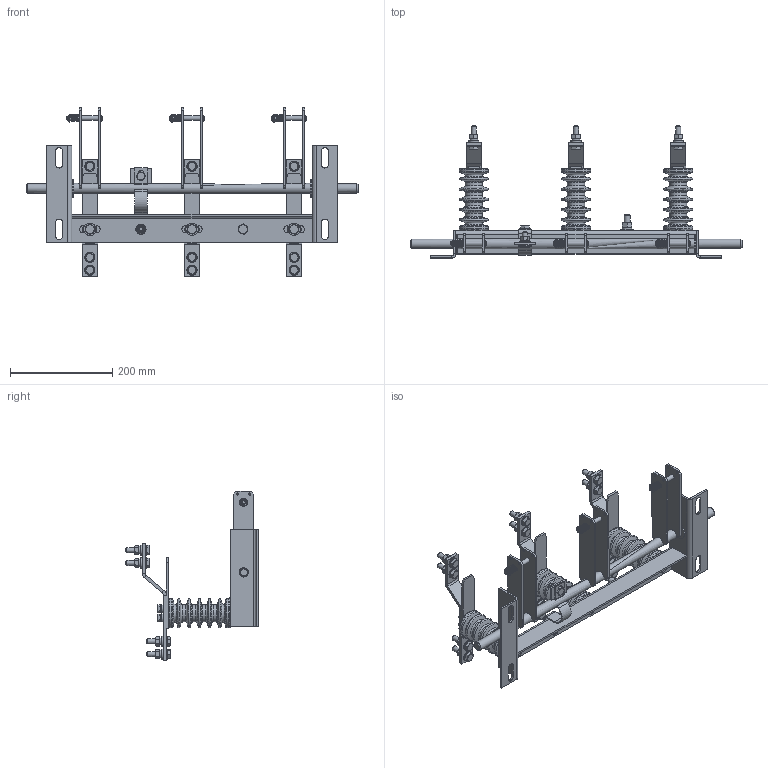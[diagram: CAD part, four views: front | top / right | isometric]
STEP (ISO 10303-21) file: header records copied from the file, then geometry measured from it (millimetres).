
FILE_DESCRIPTION (( 'STEP AP214' ), '1' );
FILE_NAME ('Çàçåìëèòåëü ÇÐ-10400-Ó3-ÊÝÀÇ.STEP', '2023-02-01T11:03:42', ( '' ), ( '' ), 'SwSTEP 2.0', 'SolidWorks 2018', '' );
FILE_SCHEMA (( 'AUTOMOTIVE_DESIGN' ));
Length unit declared in the file: millimetre
Products named in the file (1): Çàçåìëèòåëü ÇÐ-10400-Ó3-ÊÝÀÇ
Bounding box: 650 x 258.68 x 331.04 mm (x, y, z)
Volume: 1552030.4 mm3; surface area: 502994.4 mm2
Topology: 1 solids, 8 shells, 1190 faces, 2959 edges, 1911 vertices
Faces by surface type: plane 714, cylinder 283, cone 130, torus 57, bspline 6
Full cylindrical faces by diameter (mm): 4.2 x12, 8 x6, 8.799 x2, 8.852 x2, 8.964 x2, 10 x14, 10.8 x1, 11 x1, 12 x1, 12.35 x6, 13 x1, 16 x9, 17.1 x1, 18 x2, 19.639 x3, 20 x27, 24 x4, 34 x14, 54 x6, 57 x6
Entity records: 56062 total; most frequent: CARTESIAN_POINT 30295, ORIENTED_EDGE 5060, DIRECTION 5038, EDGE_CURVE 2530, AXIS2_PLACEMENT_3D 1944, VERTEX_POINT 1777, EDGE_LOOP 1671, FACE_OUTER_BOUND 1367
